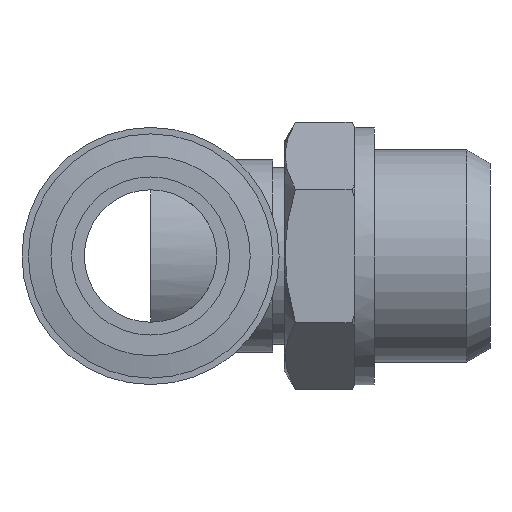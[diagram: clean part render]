
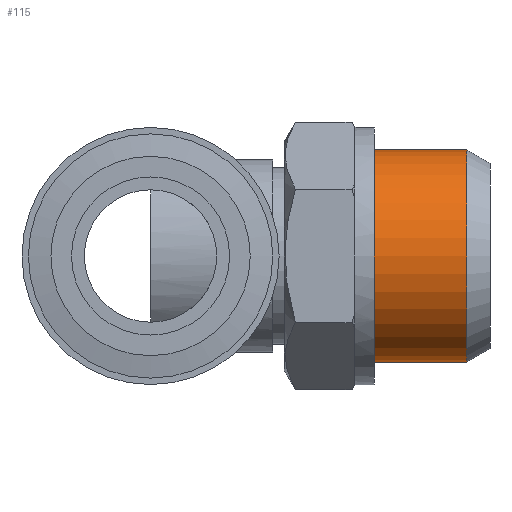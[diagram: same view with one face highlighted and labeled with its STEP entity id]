
A CAD part, front view. The second image highlights one B-rep face of the part: STEP entity #115.
In plain terms, the highlighted cylindrical face has radius 8.25 mm (diameter 16.5 mm), a full revolution.
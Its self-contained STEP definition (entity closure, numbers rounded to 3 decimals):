
#73=CARTESIAN_POINT('',(24.6,8.25,0.));
#74=VERTEX_POINT('',#73);
#75=CARTESIAN_POINT('',(24.6,0.0,0.0));
#76=DIRECTION('',(1.0,0.0,0.0));
#77=DIRECTION('',(0.0,-1.0,0.0));
#78=AXIS2_PLACEMENT_3D('',#75,#76,#77);
#79=CIRCLE('',#78,8.25);
#80=EDGE_CURVE('',#74,#74,#79,.T.);
#96=CARTESIAN_POINT('',(21.9,0.0,0.0));
#97=DIRECTION('',(1.0,0.0,0.0));
#98=DIRECTION('',(0.0,1.0,0.0));
#99=AXIS2_PLACEMENT_3D('',#96,#97,#98);
#100=CYLINDRICAL_SURFACE('',#99,8.25);
#101=CARTESIAN_POINT('',(17.4,8.25,0.0));
#102=VERTEX_POINT('',#101);
#103=CARTESIAN_POINT('',(17.4,0.0,0.0));
#104=DIRECTION('',(1.0,0.0,0.0));
#105=DIRECTION('',(0.0,1.0,0.0));
#106=AXIS2_PLACEMENT_3D('',#103,#104,#105);
#107=CIRCLE('',#106,8.25);
#108=EDGE_CURVE('',#102,#102,#107,.T.);
#109=ORIENTED_EDGE('',*,*,#108,.T.);
#110=EDGE_LOOP('',(#109));
#111=FACE_OUTER_BOUND('',#110,.T.);
#112=ORIENTED_EDGE('',*,*,#80,.F.);
#113=EDGE_LOOP('',(#112));
#114=FACE_BOUND('',#113,.T.);
#115=ADVANCED_FACE('',(#111,#114),#100,.T.);
